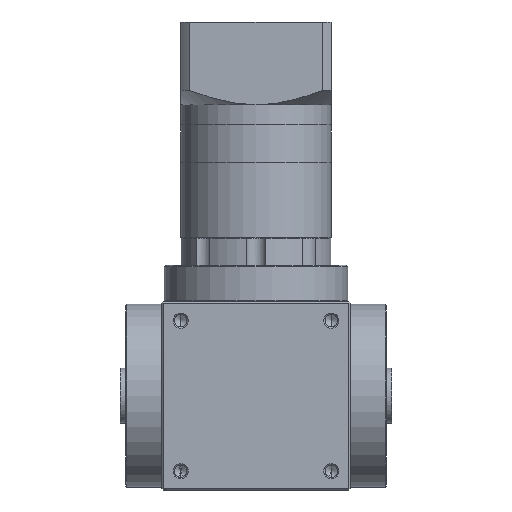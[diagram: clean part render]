
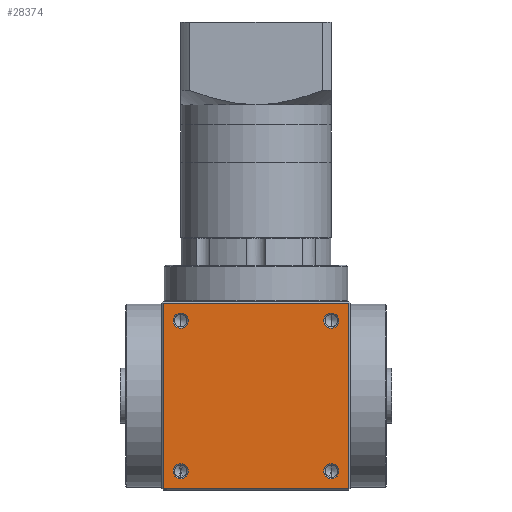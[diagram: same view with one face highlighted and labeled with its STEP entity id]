
A CAD part, front view. The second image highlights one B-rep face of the part: STEP entity #28374.
In plain terms, the highlighted planar face has unit normal (0, -1, 0).
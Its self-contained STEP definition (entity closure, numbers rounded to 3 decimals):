
#58 = AXIS2_PLACEMENT_3D ( 'NONE', #26508, #1255, #30693 ) ;
#476 = CIRCLE ( 'NONE', #7643, 3.025 ) ;
#583 = EDGE_LOOP ( 'NONE', ( #17568, #52434 ) ) ;
#1255 = DIRECTION ( 'NONE',  ( 0., -1., 0. ) ) ;
#1337 = ORIENTED_EDGE ( 'NONE', *, *, #52284, .F. ) ;
#1390 = VECTOR ( 'NONE', #15027, 1000. ) ;
#2210 = DIRECTION ( 'NONE',  ( 0., -1., 0. ) ) ;
#3054 = ORIENTED_EDGE ( 'NONE', *, *, #49067, .F. ) ;
#3073 = VERTEX_POINT ( 'NONE', #43107 ) ;
#3136 = ORIENTED_EDGE ( 'NONE', *, *, #37931, .F. ) ;
#3889 = DIRECTION ( 'NONE',  ( 0., 1., 0. ) ) ;
#4808 = FACE_BOUND ( 'NONE', #6941, .T. ) ;
#5066 = EDGE_CURVE ( 'NONE', #45457, #36914, #34963, .T. ) ;
#5758 = VERTEX_POINT ( 'NONE', #23357 ) ;
#6070 = VERTEX_POINT ( 'NONE', #13917 ) ;
#6288 = CARTESIAN_POINT ( 'NONE',  ( -30., -37.5, 4.475 ) ) ;
#6673 = AXIS2_PLACEMENT_3D ( 'NONE', #9582, #38671, #13882 ) ;
#6941 = EDGE_LOOP ( 'NONE', ( #1337, #42584 ) ) ;
#6981 = ORIENTED_EDGE ( 'NONE', *, *, #39477, .F. ) ;
#7643 = AXIS2_PLACEMENT_3D ( 'NONE', #34416, #9369, #38478 ) ;
#7909 = EDGE_CURVE ( 'NONE', #36914, #45457, #21181, .T. ) ;
#9369 = DIRECTION ( 'NONE',  ( 0., -1., 0. ) ) ;
#9582 = CARTESIAN_POINT ( 'NONE',  ( 30., -37.5, 67.5 ) ) ;
#10410 = LINE ( 'NONE', #13670, #30112 ) ;
#10762 = CARTESIAN_POINT ( 'NONE',  ( -37.5, -37.5, 0.5 ) ) ;
#10852 = DIRECTION ( 'NONE',  ( 0., -1., 0. ) ) ;
#11396 = CARTESIAN_POINT ( 'NONE',  ( -30., -37.5, 67.5 ) ) ;
#11403 = DIRECTION ( 'NONE',  ( 0., -1., 0. ) ) ;
#11466 = DIRECTION ( 'NONE',  ( 0., 0., -1. ) ) ;
#12635 = CARTESIAN_POINT ( 'NONE',  ( -30., -37.5, 64.475 ) ) ;
#13670 = CARTESIAN_POINT ( 'NONE',  ( 37., -37.5, 75. ) ) ;
#13689 = VERTEX_POINT ( 'NONE', #49699 ) ;
#13726 = ORIENTED_EDGE ( 'NONE', *, *, #50273, .F. ) ;
#13882 = DIRECTION ( 'NONE',  ( 0., 0., -1. ) ) ;
#13917 = CARTESIAN_POINT ( 'NONE',  ( -37., -37.5, 0.5 ) ) ;
#15027 = DIRECTION ( 'NONE',  ( -1., 0., 0. ) ) ;
#15998 = DIRECTION ( 'NONE',  ( 0., -1., 0. ) ) ;
#16307 = CARTESIAN_POINT ( 'NONE',  ( -37.5, -37.5, 75. ) ) ;
#16775 = EDGE_LOOP ( 'NONE', ( #25561, #3136 ) ) ;
#17234 = LINE ( 'NONE', #47828, #18502 ) ;
#17447 = FACE_BOUND ( 'NONE', #47131, .T. ) ;
#17568 = ORIENTED_EDGE ( 'NONE', *, *, #34655, .F. ) ;
#18145 = AXIS2_PLACEMENT_3D ( 'NONE', #44819, #45851, #45309 ) ;
#18502 = VECTOR ( 'NONE', #40032, 1000. ) ;
#18583 = VERTEX_POINT ( 'NONE', #48691 ) ;
#19277 = EDGE_CURVE ( 'NONE', #6070, #45334, #46899, .T. ) ;
#20041 = EDGE_CURVE ( 'NONE', #5758, #3073, #28323, .T. ) ;
#21181 = CIRCLE ( 'NONE', #44791, 3.025 ) ;
#21381 = EDGE_LOOP ( 'NONE', ( #6981, #13726, #52799, #3054 ) ) ;
#21703 = AXIS2_PLACEMENT_3D ( 'NONE', #40760, #15998, #44853 ) ;
#21796 = DIRECTION ( 'NONE',  ( 0., 0., 1. ) ) ;
#22238 = EDGE_CURVE ( 'NONE', #39892, #40263, #31352, .T. ) ;
#23357 = CARTESIAN_POINT ( 'NONE',  ( 30., -37.5, 64.475 ) ) ;
#25294 = AXIS2_PLACEMENT_3D ( 'NONE', #16307, #3889, #33228 ) ;
#25561 = ORIENTED_EDGE ( 'NONE', *, *, #20041, .F. ) ;
#26174 = CIRCLE ( 'NONE', #29335, 3.025 ) ;
#26290 = DIRECTION ( 'NONE',  ( 0., 0., -1. ) ) ;
#26508 = CARTESIAN_POINT ( 'NONE',  ( 30., -37.5, 7.5 ) ) ;
#27415 = CARTESIAN_POINT ( 'NONE',  ( -30., -37.5, 7.5 ) ) ;
#28323 = CIRCLE ( 'NONE', #6673, 3.025 ) ;
#28374 = ADVANCED_FACE ( 'NONE', ( #17447, #38116, #48876, #4808, #47621 ), #53389, .F. ) ;
#29335 = AXIS2_PLACEMENT_3D ( 'NONE', #27415, #2210, #31609 ) ;
#30112 = VECTOR ( 'NONE', #26290, 1000. ) ;
#30693 = DIRECTION ( 'NONE',  ( 0., 0., -1. ) ) ;
#31352 = CIRCLE ( 'NONE', #21703, 3.025 ) ;
#31609 = DIRECTION ( 'NONE',  ( 0., 0., -1. ) ) ;
#32887 = CIRCLE ( 'NONE', #36294, 3.025 ) ;
#33228 = DIRECTION ( 'NONE',  ( 0., 0., 1. ) ) ;
#34416 = CARTESIAN_POINT ( 'NONE',  ( 30., -37.5, 7.5 ) ) ;
#34655 = EDGE_CURVE ( 'NONE', #47942, #18583, #39532, .T. ) ;
#34843 = LINE ( 'NONE', #10762, #1390 ) ;
#34963 = CIRCLE ( 'NONE', #18145, 3.025 ) ;
#35804 = CARTESIAN_POINT ( 'NONE',  ( 30., -37.5, 67.5 ) ) ;
#36095 = VECTOR ( 'NONE', #21796, 1000. ) ;
#36294 = AXIS2_PLACEMENT_3D ( 'NONE', #35804, #10852, #39888 ) ;
#36914 = VERTEX_POINT ( 'NONE', #12635 ) ;
#37363 = CARTESIAN_POINT ( 'NONE',  ( -30., -37.5, 10.525 ) ) ;
#37931 = EDGE_CURVE ( 'NONE', #3073, #5758, #32887, .T. ) ;
#38116 = FACE_BOUND ( 'NONE', #16775, .T. ) ;
#38478 = DIRECTION ( 'NONE',  ( 0., 0., -1. ) ) ;
#38671 = DIRECTION ( 'NONE',  ( 0., -1., 0. ) ) ;
#39467 = EDGE_CURVE ( 'NONE', #18583, #47942, #476, .T. ) ;
#39477 = EDGE_CURVE ( 'NONE', #48031, #13689, #10410, .T. ) ;
#39532 = CIRCLE ( 'NONE', #58, 3.025 ) ;
#39888 = DIRECTION ( 'NONE',  ( 0., 0., -1. ) ) ;
#39892 = VERTEX_POINT ( 'NONE', #37363 ) ;
#40032 = DIRECTION ( 'NONE',  ( 1., 0., 0. ) ) ;
#40263 = VERTEX_POINT ( 'NONE', #6288 ) ;
#40760 = CARTESIAN_POINT ( 'NONE',  ( -30., -37.5, 7.5 ) ) ;
#40808 = CARTESIAN_POINT ( 'NONE',  ( -30., -37.5, 70.525 ) ) ;
#42584 = ORIENTED_EDGE ( 'NONE', *, *, #22238, .F. ) ;
#42738 = ORIENTED_EDGE ( 'NONE', *, *, #5066, .F. ) ;
#43107 = CARTESIAN_POINT ( 'NONE',  ( 30., -37.5, 70.525 ) ) ;
#43843 = CARTESIAN_POINT ( 'NONE',  ( 37., -37.5, 74.5 ) ) ;
#44066 = ORIENTED_EDGE ( 'NONE', *, *, #7909, .F. ) ;
#44791 = AXIS2_PLACEMENT_3D ( 'NONE', #11396, #11403, #11466 ) ;
#44819 = CARTESIAN_POINT ( 'NONE',  ( -30., -37.5, 67.5 ) ) ;
#44853 = DIRECTION ( 'NONE',  ( 0., 0., -1. ) ) ;
#45309 = DIRECTION ( 'NONE',  ( 0., 0., -1. ) ) ;
#45334 = VERTEX_POINT ( 'NONE', #51206 ) ;
#45457 = VERTEX_POINT ( 'NONE', #40808 ) ;
#45851 = DIRECTION ( 'NONE',  ( 0., -1., 0. ) ) ;
#46362 = CARTESIAN_POINT ( 'NONE',  ( -37., -37.5, 75. ) ) ;
#46899 = LINE ( 'NONE', #46362, #36095 ) ;
#47131 = EDGE_LOOP ( 'NONE', ( #44066, #42738 ) ) ;
#47621 = FACE_OUTER_BOUND ( 'NONE', #21381, .T. ) ;
#47828 = CARTESIAN_POINT ( 'NONE',  ( -37.5, -37.5, 74.5 ) ) ;
#47942 = VERTEX_POINT ( 'NONE', #50801 ) ;
#48031 = VERTEX_POINT ( 'NONE', #43843 ) ;
#48691 = CARTESIAN_POINT ( 'NONE',  ( 30., -37.5, 10.525 ) ) ;
#48876 = FACE_BOUND ( 'NONE', #583, .T. ) ;
#49067 = EDGE_CURVE ( 'NONE', #13689, #6070, #34843, .T. ) ;
#49699 = CARTESIAN_POINT ( 'NONE',  ( 37., -37.5, 0.5 ) ) ;
#50273 = EDGE_CURVE ( 'NONE', #45334, #48031, #17234, .T. ) ;
#50801 = CARTESIAN_POINT ( 'NONE',  ( 30., -37.5, 4.475 ) ) ;
#51206 = CARTESIAN_POINT ( 'NONE',  ( -37., -37.5, 74.5 ) ) ;
#52284 = EDGE_CURVE ( 'NONE', #40263, #39892, #26174, .T. ) ;
#52434 = ORIENTED_EDGE ( 'NONE', *, *, #39467, .F. ) ;
#52799 = ORIENTED_EDGE ( 'NONE', *, *, #19277, .F. ) ;
#53389 = PLANE ( 'NONE',  #25294 ) ;
